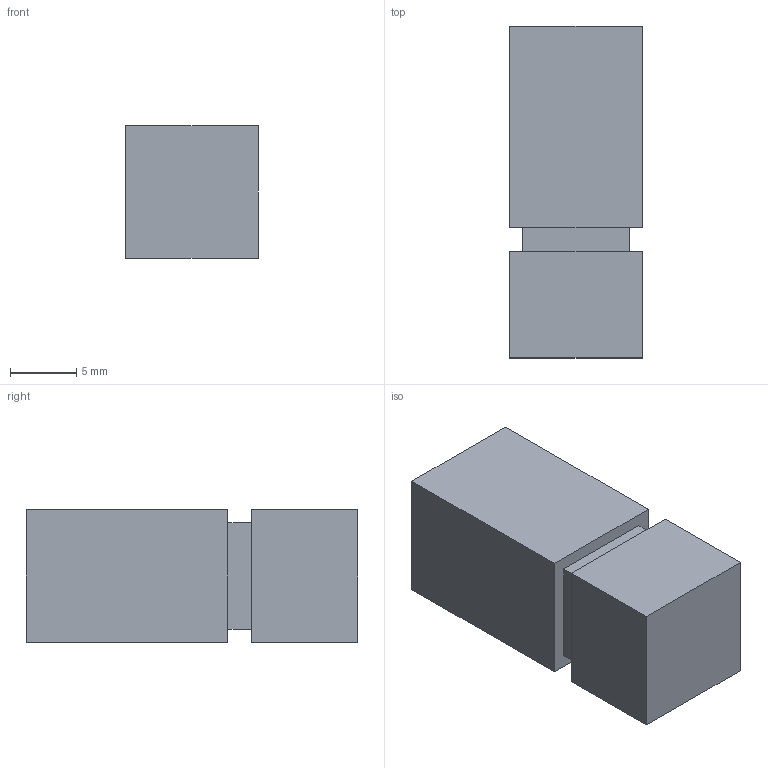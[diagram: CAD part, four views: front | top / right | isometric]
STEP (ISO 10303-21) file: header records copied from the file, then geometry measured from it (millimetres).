
FILE_DESCRIPTION( ( 'STEP AP214' ), '1' );
FILE_NAME( 'C:/Users/swati/Swati/Swati/handle/9208071/9208071.stp', ' ', ( ' ' ), ( ' ' ), 'PSStep 15.0.47', 'PARTsolutions', ' ' );
FILE_SCHEMA( ( 'AUTOMOTIVE_DESIGN { 1 0 10303 214 1 1 1 1 }' ) );
Length unit declared in the file: millimetre
Products named in the file (2): 95 ; _
Assembly tree (1 placements, depth 2):
  95 
    _
Bounding box: 10 x 25 x 10 mm (x, y, z)
Volume: 2309.5 mm3; surface area: 1383.3 mm2
Topology: 1 solids, 1 shells, 18 faces, 39 edges, 26 vertices
Faces by surface type: plane 17, cylinder 1
Full cylindrical faces by diameter (mm): 4 x1
Entity records: 662 total; most frequent: CARTESIAN_POINT 84, DIRECTION 80, ORIENTED_EDGE 76, EDGE_CURVE 38, LINE 36, VECTOR 36, VERTEX_POINT 26, AXIS2_PLACEMENT_3D 22
